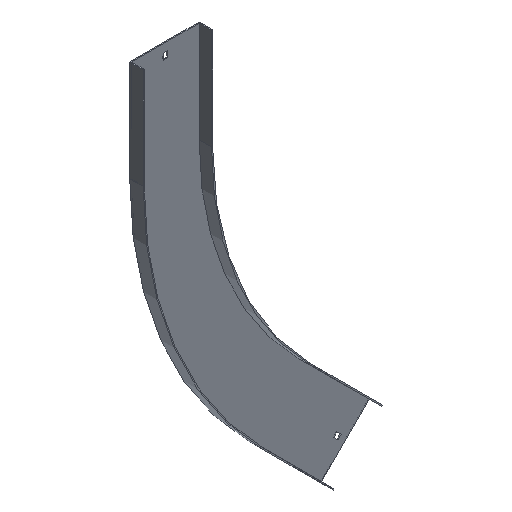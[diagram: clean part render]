
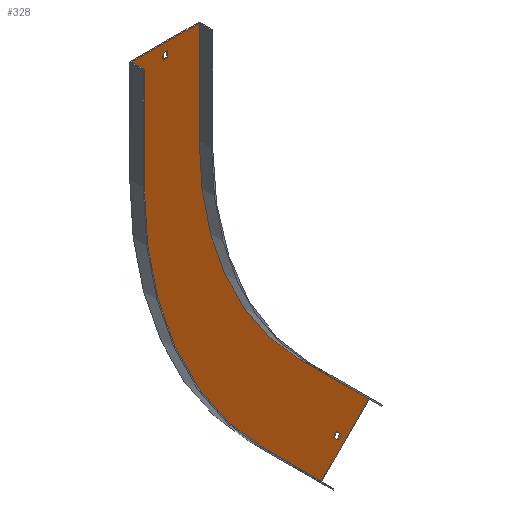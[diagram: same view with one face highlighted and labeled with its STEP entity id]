
A CAD part, isometric view. The second image highlights one B-rep face of the part: STEP entity #328.
In plain terms, the highlighted planar face has unit normal (0, -1, 0).
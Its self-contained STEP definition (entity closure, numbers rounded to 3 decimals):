
#4 = CARTESIAN_POINT ( 'NONE',  ( -500., -1.5, 150. ) ) ;
#12 = DIRECTION ( 'NONE',  ( 0., -1., 0. ) ) ;
#16 = DIRECTION ( 'NONE',  ( -1., 0., 0. ) ) ;
#18 = EDGE_LOOP ( 'NONE', ( #561, #655, #113, #520 ) ) ;
#19 = DIRECTION ( 'NONE',  ( 1., 0., 0. ) ) ;
#20 = FACE_OUTER_BOUND ( 'NONE', #375, .T. ) ;
#36 = EDGE_LOOP ( 'NONE', ( #781, #101, #57, #260 ) ) ;
#40 = EDGE_CURVE ( 'NONE', #589, #578, #414, .T. ) ;
#43 = DIRECTION ( 'NONE',  ( 0., 0., 1. ) ) ;
#57 = ORIENTED_EDGE ( 'NONE', *, *, #495, .T. ) ;
#68 = VECTOR ( 'NONE', #751, 1000. ) ;
#75 = CARTESIAN_POINT ( 'NONE',  ( -391.207, -1.5, -391.207 ) ) ;
#79 = DIRECTION ( 'NONE',  ( 0.707, 0., 0.707 ) ) ;
#86 = CARTESIAN_POINT ( 'NONE',  ( -546.75, -1.5, 129. ) ) ;
#87 = CARTESIAN_POINT ( 'NONE',  ( -500., -1.5, 150. ) ) ;
#88 = CARTESIAN_POINT ( 'NONE',  ( -546.75, -1.5, 138. ) ) ;
#89 = VERTEX_POINT ( 'NONE', #572 ) ;
#90 = CARTESIAN_POINT ( 'NONE',  ( -318.198, -1.5, -530.33 ) ) ;
#101 = ORIENTED_EDGE ( 'NONE', *, *, #392, .T. ) ;
#106 = CARTESIAN_POINT ( 'NONE',  ( 0., -1.5, 0. ) ) ;
#109 = LINE ( 'NONE', #854, #227 ) ;
#113 = ORIENTED_EDGE ( 'NONE', *, *, #483, .F. ) ;
#121 = CARTESIAN_POINT ( 'NONE',  ( -293.626, -1.5, -488.788 ) ) ;
#131 = VECTOR ( 'NONE', #290, 1000. ) ;
#135 = CARTESIAN_POINT ( 'NONE',  ( -600., -1.5, 0. ) ) ;
#140 = EDGE_CURVE ( 'NONE', #326, #405, #372, .T. ) ;
#143 = CARTESIAN_POINT ( 'NONE',  ( -553.25, -1.5, 0. ) ) ;
#154 = VERTEX_POINT ( 'NONE', #511 ) ;
#157 = CARTESIAN_POINT ( 'NONE',  ( 0., -1.5, 0. ) ) ;
#172 = AXIS2_PLACEMENT_3D ( 'NONE', #157, #682, #619 ) ;
#173 = VECTOR ( 'NONE', #264, 1000. ) ;
#176 = DIRECTION ( 'NONE',  ( 0., 1., 0. ) ) ;
#182 = DIRECTION ( 'NONE',  ( -0.707, 0., -0.707 ) ) ;
#191 = EDGE_CURVE ( 'NONE', #154, #230, #281, .T. ) ;
#200 = VECTOR ( 'NONE', #16, 1000. ) ;
#212 = EDGE_CURVE ( 'NONE', #432, #793, #409, .T. ) ;
#217 = VECTOR ( 'NONE', #19, 1000. ) ;
#222 = CARTESIAN_POINT ( 'NONE',  ( -353.553, -1.5, -353.553 ) ) ;
#224 = ORIENTED_EDGE ( 'NONE', *, *, #434, .F. ) ;
#226 = CARTESIAN_POINT ( 'NONE',  ( -299.99, -1.5, -482.424 ) ) ;
#227 = VECTOR ( 'NONE', #43, 1000. ) ;
#230 = VERTEX_POINT ( 'NONE', #135 ) ;
#259 = CARTESIAN_POINT ( 'NONE',  ( -289.03, -1.5, -484.191 ) ) ;
#260 = ORIENTED_EDGE ( 'NONE', *, *, #686, .T. ) ;
#264 = DIRECTION ( 'NONE',  ( 0.707, 0., -0.707 ) ) ;
#269 = AXIS2_PLACEMENT_3D ( 'NONE', #609, #12, #278 ) ;
#271 = DIRECTION ( 'NONE',  ( 0., 0., -1. ) ) ;
#274 = CARTESIAN_POINT ( 'NONE',  ( -353.553, -1.5, -353.553 ) ) ;
#278 = DIRECTION ( 'NONE',  ( 0., 0., -1. ) ) ;
#280 = EDGE_CURVE ( 'NONE', #397, #788, #338, .T. ) ;
#281 = CIRCLE ( 'NONE', #614, 600. ) ;
#283 = LINE ( 'NONE', #143, #131 ) ;
#289 = FACE_BOUND ( 'NONE', #36, .T. ) ;
#290 = DIRECTION ( 'NONE',  ( 0., 0., 1. ) ) ;
#306 = VECTOR ( 'NONE', #347, 1000. ) ;
#314 = VERTEX_POINT ( 'NONE', #259 ) ;
#317 = VERTEX_POINT ( 'NONE', #222 ) ;
#326 = VERTEX_POINT ( 'NONE', #747 ) ;
#328 = ADVANCED_FACE ( 'NONE', ( #428, #20, #289 ), #558, .T. ) ;
#334 = CARTESIAN_POINT ( 'NONE',  ( 0., -1.5, 138. ) ) ;
#338 = LINE ( 'NONE', #4, #647 ) ;
#341 = DIRECTION ( 'NONE',  ( 0.707, 0., -0.707 ) ) ;
#343 = CARTESIAN_POINT ( 'NONE',  ( 97.581, -1.5, -97.581 ) ) ;
#347 = DIRECTION ( 'NONE',  ( -0.707, 0., -0.707 ) ) ;
#361 = ORIENTED_EDGE ( 'NONE', *, *, #191, .F. ) ;
#371 = LINE ( 'NONE', #90, #501 ) ;
#372 = LINE ( 'NONE', #768, #510 ) ;
#375 = EDGE_LOOP ( 'NONE', ( #587, #224, #361, #856, #534, #730, #762, #517 ) ) ;
#392 = EDGE_CURVE ( 'NONE', #793, #645, #746, .T. ) ;
#397 = VERTEX_POINT ( 'NONE', #87 ) ;
#405 = VERTEX_POINT ( 'NONE', #226 ) ;
#409 = LINE ( 'NONE', #334, #613 ) ;
#414 = LINE ( 'NONE', #811, #306 ) ;
#417 = CARTESIAN_POINT ( 'NONE',  ( -247.487, -1.5, -459.619 ) ) ;
#422 = CARTESIAN_POINT ( 'NONE',  ( -546.75, -1.5, 0. ) ) ;
#428 = FACE_BOUND ( 'NONE', #18, .T. ) ;
#432 = VERTEX_POINT ( 'NONE', #591 ) ;
#434 = EDGE_CURVE ( 'NONE', #230, #89, #109, .T. ) ;
#460 = EDGE_CURVE ( 'NONE', #844, #314, #661, .T. ) ;
#483 = EDGE_CURVE ( 'NONE', #405, #844, #652, .T. ) ;
#492 = CARTESIAN_POINT ( 'NONE',  ( -318.198, -1.5, -530.33 ) ) ;
#495 = EDGE_CURVE ( 'NONE', #645, #829, #728, .T. ) ;
#501 = VECTOR ( 'NONE', #562, 1000. ) ;
#507 = EDGE_CURVE ( 'NONE', #314, #326, #862, .T. ) ;
#510 = VECTOR ( 'NONE', #182, 1000. ) ;
#511 = CARTESIAN_POINT ( 'NONE',  ( -424.264, -1.5, -424.264 ) ) ;
#517 = ORIENTED_EDGE ( 'NONE', *, *, #280, .F. ) ;
#520 = ORIENTED_EDGE ( 'NONE', *, *, #140, .F. ) ;
#525 = CARTESIAN_POINT ( 'NONE',  ( -500., -1.5, 0. ) ) ;
#534 = ORIENTED_EDGE ( 'NONE', *, *, #40, .F. ) ;
#539 = VECTOR ( 'NONE', #341, 1000. ) ;
#546 = CARTESIAN_POINT ( 'NONE',  ( -601.5, -1.5, 150. ) ) ;
#547 = DIRECTION ( 'NONE',  ( -0.707, 0., 0.707 ) ) ;
#557 = LINE ( 'NONE', #274, #539 ) ;
#558 = PLANE ( 'NONE',  #172 ) ;
#561 = ORIENTED_EDGE ( 'NONE', *, *, #507, .F. ) ;
#562 = DIRECTION ( 'NONE',  ( -0.707, 0., 0.707 ) ) ;
#570 = EDGE_CURVE ( 'NONE', #788, #317, #679, .T. ) ;
#572 = CARTESIAN_POINT ( 'NONE',  ( -600., -1.5, 150. ) ) ;
#578 = VERTEX_POINT ( 'NONE', #492 ) ;
#587 = ORIENTED_EDGE ( 'NONE', *, *, #666, .F. ) ;
#589 = VERTEX_POINT ( 'NONE', #417 ) ;
#591 = CARTESIAN_POINT ( 'NONE',  ( -553.25, -1.5, 138. ) ) ;
#606 = EDGE_CURVE ( 'NONE', #578, #154, #371, .T. ) ;
#608 = LINE ( 'NONE', #546, #217 ) ;
#609 = CARTESIAN_POINT ( 'NONE',  ( 0., -1.5, 0. ) ) ;
#613 = VECTOR ( 'NONE', #653, 1000. ) ;
#614 = AXIS2_PLACEMENT_3D ( 'NONE', #106, #176, #778 ) ;
#619 = DIRECTION ( 'NONE',  ( 0., 0., -1. ) ) ;
#625 = VECTOR ( 'NONE', #79, 1000. ) ;
#645 = VERTEX_POINT ( 'NONE', #86 ) ;
#647 = VECTOR ( 'NONE', #271, 1000. ) ;
#652 = LINE ( 'NONE', #75, #173 ) ;
#653 = DIRECTION ( 'NONE',  ( 1., 0., 0. ) ) ;
#655 = ORIENTED_EDGE ( 'NONE', *, *, #460, .F. ) ;
#661 = LINE ( 'NONE', #343, #625 ) ;
#666 = EDGE_CURVE ( 'NONE', #89, #397, #608, .T. ) ;
#679 = CIRCLE ( 'NONE', #269, 500. ) ;
#682 = DIRECTION ( 'NONE',  ( 0., -1., 0. ) ) ;
#686 = EDGE_CURVE ( 'NONE', #829, #432, #283, .T. ) ;
#727 = EDGE_CURVE ( 'NONE', #317, #589, #557, .T. ) ;
#728 = LINE ( 'NONE', #795, #200 ) ;
#730 = ORIENTED_EDGE ( 'NONE', *, *, #727, .F. ) ;
#736 = VECTOR ( 'NONE', #547, 1000. ) ;
#746 = LINE ( 'NONE', #422, #68 ) ;
#747 = CARTESIAN_POINT ( 'NONE',  ( -295.394, -1.5, -477.827 ) ) ;
#751 = DIRECTION ( 'NONE',  ( 0., 0., -1. ) ) ;
#762 = ORIENTED_EDGE ( 'NONE', *, *, #570, .F. ) ;
#768 = CARTESIAN_POINT ( 'NONE',  ( 91.217, -1.5, -91.217 ) ) ;
#778 = DIRECTION ( 'NONE',  ( 0., 0., -1. ) ) ;
#781 = ORIENTED_EDGE ( 'NONE', *, *, #212, .T. ) ;
#788 = VERTEX_POINT ( 'NONE', #525 ) ;
#793 = VERTEX_POINT ( 'NONE', #88 ) ;
#795 = CARTESIAN_POINT ( 'NONE',  ( 0., -1.5, 129. ) ) ;
#809 = CARTESIAN_POINT ( 'NONE',  ( -386.611, -1.5, -386.611 ) ) ;
#811 = CARTESIAN_POINT ( 'NONE',  ( -246.427, -1.5, -458.559 ) ) ;
#829 = VERTEX_POINT ( 'NONE', #842 ) ;
#842 = CARTESIAN_POINT ( 'NONE',  ( -553.25, -1.5, 129. ) ) ;
#844 = VERTEX_POINT ( 'NONE', #121 ) ;
#854 = CARTESIAN_POINT ( 'NONE',  ( -600., -1.5, 0. ) ) ;
#856 = ORIENTED_EDGE ( 'NONE', *, *, #606, .F. ) ;
#862 = LINE ( 'NONE', #809, #736 ) ;
